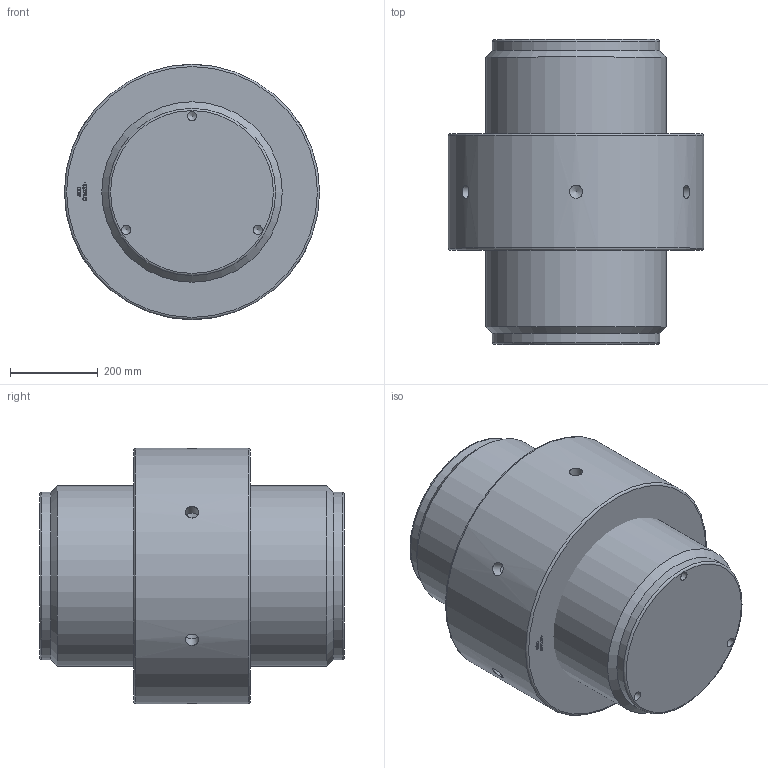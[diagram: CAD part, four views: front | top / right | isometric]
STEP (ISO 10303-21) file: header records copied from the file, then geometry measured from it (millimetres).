
FILE_DESCRIPTION(/* description */ (''),/* implementation_level */ '2;1');
FILE_NAME(/* name */ 'F:\Clienti LS\Redaelli\CYT\CYT\ARRNGEMENT\CYT132 61 061 0.stp',/* time_stamp */ '2021-05-09T08:58:12+02:00',/* author */ ('ranca'),/* organization */ (''),/* preprocessor_version */ 'ST-DEVELOPER v16.13',/* originating_system */ 'Autodesk Inventor 2018',/* authorisation */ '');
FILE_SCHEMA (('AUTOMOTIVE_DESIGN { 1 0 10303 214 3 1 1 }'));
Length unit declared in the file: millimetre
Products named in the file (3): CYT012-61-061-0; CYT012-61-061-0_1; CYT012-61-061-0_DADO
Assembly tree (2 placements, depth 2):
  CYT012-61-061-0
    CYT012-61-061-0_1
    CYT012-61-061-0_DADO
Bounding box: 580 x 693 x 580 mm (x, y, z)
Volume: 126173361.2 mm3; surface area: 2236704.2 mm2
Topology: 2 solids, 2 shells, 362 faces, 1004 edges, 668 vertices
Faces by surface type: bspline 186, plane 147, cylinder 14, cone 11, torus 4
Full cylindrical faces by diameter (mm): 20.752 x3, 30 x6, 380 x2, 403.505 x1, 410 x1, 580 x1
Entity records: 12462 total; most frequent: CARTESIAN_POINT 4606, ORIENTED_EDGE 1918, DIRECTION 963, EDGE_CURVE 959, VERTEX_POINT 652, LINE 549, VECTOR 549, EDGE_LOOP 415
